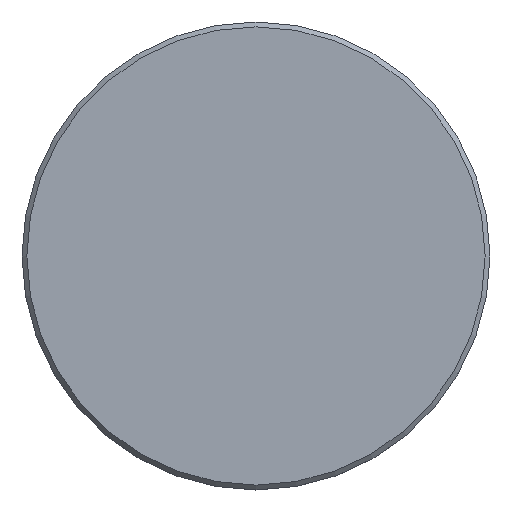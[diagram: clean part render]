
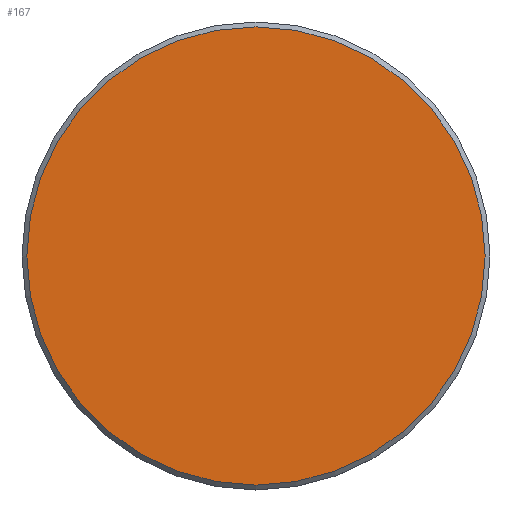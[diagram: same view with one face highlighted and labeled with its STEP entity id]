
A CAD part, top view. The second image highlights one B-rep face of the part: STEP entity #167.
In plain terms, the highlighted planar face has unit normal (0, 0, 1).
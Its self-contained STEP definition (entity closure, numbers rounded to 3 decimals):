
#13 = CARTESIAN_POINT ( 'NONE',  ( 0., 0., 0. ) ) ;
#41 = DIRECTION ( 'NONE',  ( 0., 0., -1. ) ) ;
#49 = DIRECTION ( 'NONE',  ( 0., 0., 1. ) ) ;
#50 = DIRECTION ( 'NONE',  ( -1., 0., 0. ) ) ;
#52 = CIRCLE ( 'NONE', #53, 23.5 ) ;
#53 = AXIS2_PLACEMENT_3D ( 'NONE', #13, #49, #160 ) ;
#67 = AXIS2_PLACEMENT_3D ( 'NONE', #152, #41, #50 ) ;
#68 = PLANE ( 'NONE',  #67 ) ;
#111 = FACE_OUTER_BOUND ( 'NONE', #126, .T. ) ;
#126 = EDGE_LOOP ( 'NONE', ( #187 ) ) ;
#133 = EDGE_CURVE ( 'NONE', #175, #175, #52, .T. ) ;
#137 = CARTESIAN_POINT ( 'NONE',  ( 23.5, 0., 0. ) ) ;
#152 = CARTESIAN_POINT ( 'NONE',  ( 0., 0., 0. ) ) ;
#160 = DIRECTION ( 'NONE',  ( 1., 0., 0. ) ) ;
#167 = ADVANCED_FACE ( 'NONE', ( #111 ), #68, .F. ) ;
#175 = VERTEX_POINT ( 'NONE', #137 ) ;
#187 = ORIENTED_EDGE ( 'NONE', *, *, #133, .T. ) ;
